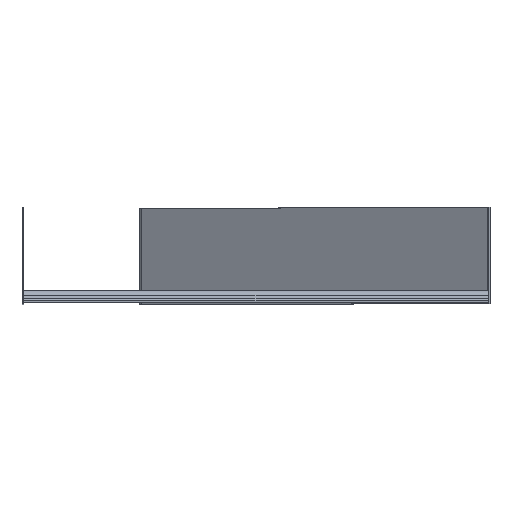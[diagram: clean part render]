
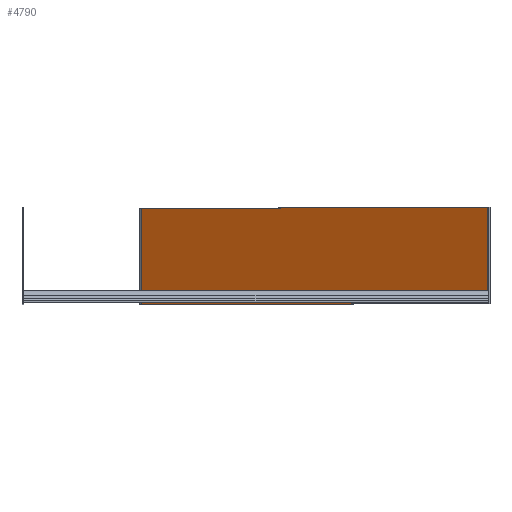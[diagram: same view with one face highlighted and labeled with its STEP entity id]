
A CAD part, top view. The second image highlights one B-rep face of the part: STEP entity #4790.
In plain terms, the highlighted planar face has unit normal (-0.528, 0, 0.849).
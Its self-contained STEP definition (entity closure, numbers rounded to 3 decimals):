
#646 = VECTOR ( 'NONE', #927, 1000. ) ;
#673 = LINE ( 'NONE', #9726, #3227 ) ;
#876 = CARTESIAN_POINT ( 'NONE',  ( 525., 0., 0. ) ) ;
#927 = DIRECTION ( 'NONE',  ( -0.849, 0., -0.528 ) ) ;
#1144 = EDGE_CURVE ( 'NONE', #2351, #3096, #3857, .T. ) ;
#1274 = DIRECTION ( 'NONE',  ( -0.528, 0., 0.849 ) ) ;
#1674 = LINE ( 'NONE', #876, #646 ) ;
#2351 = VERTEX_POINT ( 'NONE', #4394 ) ;
#2575 = EDGE_CURVE ( 'NONE', #5317, #6923, #7654, .T. ) ;
#3096 = VERTEX_POINT ( 'NONE', #8631 ) ;
#3227 = VECTOR ( 'NONE', #3676, 1000. ) ;
#3284 = ORIENTED_EDGE ( 'NONE', *, *, #2575, .F. ) ;
#3676 = DIRECTION ( 'NONE',  ( -0.849, 0., -0.528 ) ) ;
#3700 = EDGE_LOOP ( 'NONE', ( #3284, #8323, #9852, #9294 ) ) ;
#3857 = LINE ( 'NONE', #5418, #7507 ) ;
#4394 = CARTESIAN_POINT ( 'NONE',  ( 524.292, 0., -0.44 ) ) ;
#4713 = DIRECTION ( 'NONE',  ( 0., 1., 0. ) ) ;
#4790 = ADVANCED_FACE ( 'NONE', ( #7510 ), #6506, .T. ) ;
#5317 = VERTEX_POINT ( 'NONE', #7482 ) ;
#5418 = CARTESIAN_POINT ( 'NONE',  ( 524.292, 0., -0.44 ) ) ;
#5843 = VECTOR ( 'NONE', #7596, 1000. ) ;
#5925 = EDGE_CURVE ( 'NONE', #2351, #5317, #1674, .T. ) ;
#6218 = AXIS2_PLACEMENT_3D ( 'NONE', #8839, #1274, #6715 ) ;
#6506 = PLANE ( 'NONE',  #6218 ) ;
#6715 = DIRECTION ( 'NONE',  ( 0.849, 0., 0.528 ) ) ;
#6923 = VERTEX_POINT ( 'NONE', #8603 ) ;
#7482 = CARTESIAN_POINT ( 'NONE',  ( 76.651, 0., -278.973 ) ) ;
#7507 = VECTOR ( 'NONE', #4713, 1000. ) ;
#7510 = FACE_OUTER_BOUND ( 'NONE', #3700, .T. ) ;
#7596 = DIRECTION ( 'NONE',  ( 0., 1., 0. ) ) ;
#7654 = LINE ( 'NONE', #8978, #5843 ) ;
#7984 = EDGE_CURVE ( 'NONE', #3096, #6923, #673, .T. ) ;
#8323 = ORIENTED_EDGE ( 'NONE', *, *, #5925, .F. ) ;
#8603 = CARTESIAN_POINT ( 'NONE',  ( 76.651, 124., -278.973 ) ) ;
#8631 = CARTESIAN_POINT ( 'NONE',  ( 524.292, 124., -0.44 ) ) ;
#8839 = CARTESIAN_POINT ( 'NONE',  ( 525., 124., 0. ) ) ;
#8978 = CARTESIAN_POINT ( 'NONE',  ( 76.651, 0., -278.973 ) ) ;
#9294 = ORIENTED_EDGE ( 'NONE', *, *, #7984, .T. ) ;
#9726 = CARTESIAN_POINT ( 'NONE',  ( 525., 124., 0. ) ) ;
#9852 = ORIENTED_EDGE ( 'NONE', *, *, #1144, .T. ) ;
